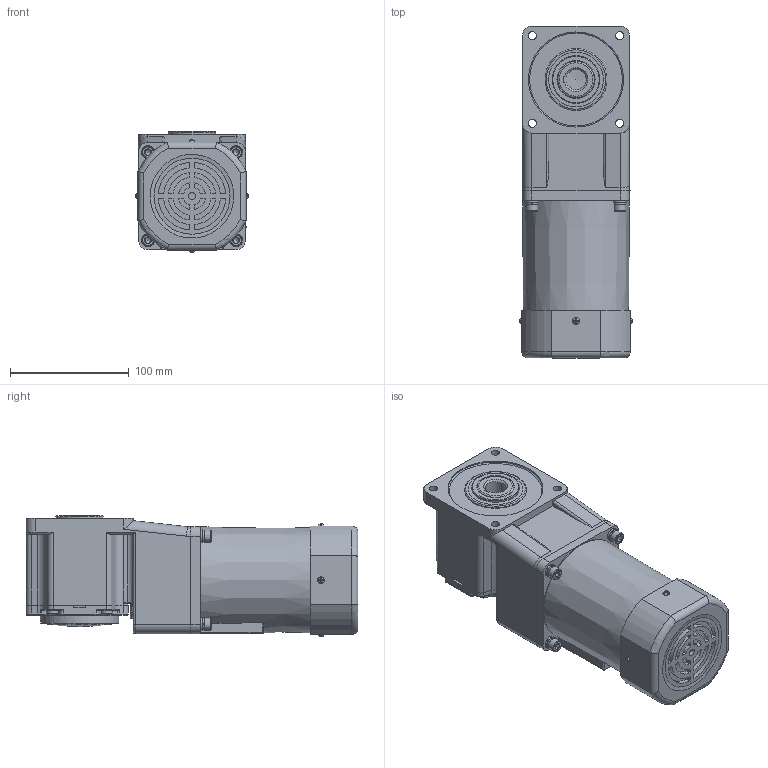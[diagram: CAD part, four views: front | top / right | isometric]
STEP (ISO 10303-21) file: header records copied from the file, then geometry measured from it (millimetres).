
FILE_DESCRIPTION(/* description */ (''),/* implementation_level */ '2;1');
FILE_NAME(/* name */ '90+中空直角-风叶-90W.stp',/* time_stamp */ '2022-09-27T12:38:34+08:00',/* author */ (''),/* organization */ (''),/* preprocessor_version */ 'ST-DEVELOPER v16.7',/* originating_system */ 'SIEMENS PLM Software NX 1899',/* authorisation */ '');
FILE_SCHEMA (('AP203_CONFIGURATION_CONTROLLED_3D_DESIGN_OF_MECHANICAL_PARTS_AND_ASSEMBLIES_MIM_LF { 1 0 10303 403 2 1 2}'));
Length unit declared in the file: millimetre
Products named in the file (1): yf1815905F60uhc3
Bounding box: 94.85 x 279 x 101.92 mm (x, y, z)
Volume: 1906547.7 mm3; surface area: 163712 mm2
Topology: 15 solids, 15 shells, 738 faces, 1740 edges, 1066 vertices
Faces by surface type: plane 376, cylinder 232, torus 63, cone 49, sphere 10, bspline 8
Full cylindrical faces by diameter (mm): 3.3 x2, 4.5 x2, 5 x4, 5.5 x4, 5.795 x4, 6 x1, 6.4 x4, 7 x8, 9.5 x4, 10 x4, 11 x4, 30 x2, 40 x1, 47 x1, 47.5 x1, 52 x1, 60 x1, 60.5 x1, 66 x1, 67 x1, 80 x1, 86 x1
Entity records: 22498 total; most frequent: CARTESIAN_POINT 4909, DIRECTION 3458, ORIENTED_EDGE 3150, EDGE_CURVE 1575, AXIS2_PLACEMENT_3D 1340, VERTEX_POINT 1022, EDGE_LOOP 913, LINE 778
